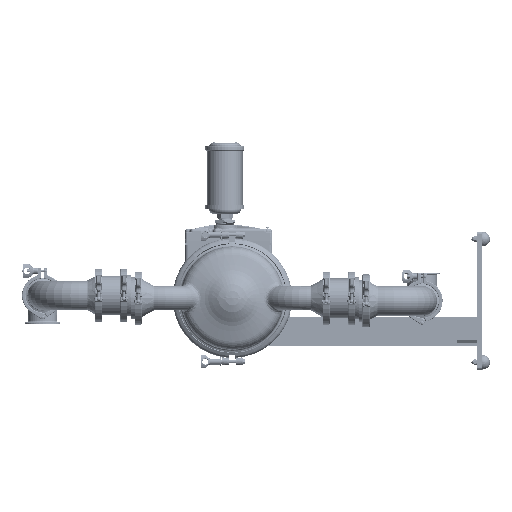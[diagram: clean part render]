
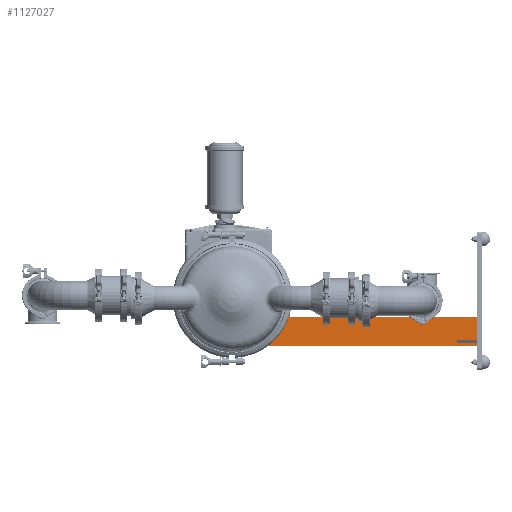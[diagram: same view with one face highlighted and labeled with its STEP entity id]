
A CAD part, left-side view. The second image highlights one B-rep face of the part: STEP entity #1127027.
In plain terms, the highlighted planar face has unit normal (-1, 0, 0).
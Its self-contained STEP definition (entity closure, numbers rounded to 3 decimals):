
#707452=DIRECTION('',(0.,1.,0.));
#707453=VECTOR('',#707452,21.9);
#707454=CARTESIAN_POINT('',(-1.,-24.78,-4.898));
#707455=LINE('',#707454,#707453);
#707456=DIRECTION('',(0.,0.,1.));
#707457=VECTOR('',#707456,2.44);
#707458=CARTESIAN_POINT('',(-1.,-2.88,-4.898));
#707459=LINE('',#707458,#707457);
#707460=DIRECTION('',(0.,1.,0.));
#707461=VECTOR('',#707460,1.33);
#707462=CARTESIAN_POINT('',(-1.,-4.21,-2.458));
#707463=LINE('',#707462,#707461);
#707464=DIRECTION('',(0.,0.,-1.));
#707465=VECTOR('',#707464,0.53);
#707466=CARTESIAN_POINT('',(-1.,-4.21,-1.928));
#707467=LINE('',#707466,#707465);
#707468=DIRECTION('',(0.,-1.,0.));
#707469=VECTOR('',#707468,0.05);
#707470=CARTESIAN_POINT('',(-1.,-4.16,-1.928));
#707471=LINE('',#707470,#707469);
#707472=DIRECTION('',(0.,-1.,0.));
#707473=VECTOR('',#707472,1.28);
#707474=CARTESIAN_POINT('',(-1.,-2.88,-1.928));
#707475=LINE('',#707474,#707473);
#707476=DIRECTION('',(0.,0.,1.));
#707477=VECTOR('',#707476,2.955);
#707478=CARTESIAN_POINT('',(-1.,-2.88,-1.928));
#707479=LINE('',#707478,#707477);
#707480=DIRECTION('',(0.,-1.,0.));
#707481=VECTOR('',#707480,18.9);
#707482=CARTESIAN_POINT('',(-1.,-5.88,-1.898));
#707483=LINE('',#707482,#707481);
#707484=DIRECTION('',(0.,1.,0.));
#707485=VECTOR('',#707484,2.);
#707486=CARTESIAN_POINT('',(-1.,-24.78,-4.288));
#707487=LINE('',#707486,#707485);
#707488=DIRECTION('',(0.,0.,-1.));
#707489=VECTOR('',#707488,0.25);
#707490=CARTESIAN_POINT('',(-1.,-22.78,-4.288));
#707491=LINE('',#707490,#707489);
#707492=DIRECTION('',(0.,1.,0.));
#707493=VECTOR('',#707492,2.);
#707494=CARTESIAN_POINT('',(-1.,-24.78,-4.538));
#707495=LINE('',#707494,#707493);
#707728=DIRECTION('',(0.,0.,-1.));
#707729=VECTOR('',#707728,2.39);
#707730=CARTESIAN_POINT('',(-1.,-24.78,-1.898));
#707731=LINE('',#707730,#707729);
#707760=DIRECTION('',(0.,0.,-1.));
#707761=VECTOR('',#707760,0.36);
#707762=CARTESIAN_POINT('',(-1.,-24.78,-4.538));
#707763=LINE('',#707762,#707761);
#708304=DIRECTION('',(0.,0.,1.));
#708305=VECTOR('',#708304,2.925);
#708306=CARTESIAN_POINT('',(-1.,-5.88,-1.898));
#708307=LINE('',#708306,#708305);
#708320=DIRECTION('',(0.,-1.,0.));
#708321=VECTOR('',#708320,3.);
#708322=CARTESIAN_POINT('',(-1.,-2.88,1.027));
#708323=LINE('',#708322,#708321);
#924719=CARTESIAN_POINT('',(-1.,-24.78,-4.898));
#924721=VERTEX_POINT('',#924719);
#924724=CARTESIAN_POINT('',(-1.,-24.78,-1.898));
#924726=VERTEX_POINT('',#924724);
#924727=CARTESIAN_POINT('',(-1.,-4.21,-1.928));
#924728=CARTESIAN_POINT('',(-1.,-4.21,-2.458));
#924729=VERTEX_POINT('',#924727);
#924730=VERTEX_POINT('',#924728);
#924731=CARTESIAN_POINT('',(-1.,-2.88,-2.458));
#924732=VERTEX_POINT('',#924731);
#924752=CARTESIAN_POINT('',(-1.,-5.88,-1.898));
#924754=VERTEX_POINT('',#924752);
#924759=CARTESIAN_POINT('',(-1.,-2.88,1.027));
#924760=VERTEX_POINT('',#924759);
#924761=CARTESIAN_POINT('',(-1.,-5.88,1.027));
#924762=VERTEX_POINT('',#924761);
#924880=CARTESIAN_POINT('',(-1.,-2.88,-1.928));
#924881=CARTESIAN_POINT('',(-1.,-4.16,-1.928));
#924882=VERTEX_POINT('',#924880);
#924883=VERTEX_POINT('',#924881);
#924908=CARTESIAN_POINT('',(-1.,-24.78,-4.288));
#924910=VERTEX_POINT('',#924908);
#924912=CARTESIAN_POINT('',(-1.,-24.78,-4.538));
#924914=VERTEX_POINT('',#924912);
#924916=CARTESIAN_POINT('',(-1.,-22.78,-4.288));
#924917=VERTEX_POINT('',#924916);
#924918=CARTESIAN_POINT('',(-1.,-22.78,-4.538));
#924919=VERTEX_POINT('',#924918);
#924921=CARTESIAN_POINT('',(-1.,-2.88,-4.898));
#924923=VERTEX_POINT('',#924921);
#1126992=CARTESIAN_POINT('',(-1.,-5.88,-1.898));
#1126993=DIRECTION('',(-1.,0.,0.));
#1126994=DIRECTION('',(0.,0.,-1.));
#1126995=AXIS2_PLACEMENT_3D('',#1126992,#1126993,#1126994);
#1126996=PLANE('',#1126995);
#1126998=ORIENTED_EDGE('',*,*,#1126997,.T.);
#1127000=ORIENTED_EDGE('',*,*,#1126999,.T.);
#1127002=ORIENTED_EDGE('',*,*,#1127001,.F.);
#1127004=ORIENTED_EDGE('',*,*,#1127003,.F.);
#1127005=ORIENTED_EDGE('',*,*,#1126983,.F.);
#1127006=ORIENTED_EDGE('',*,*,#956291,.F.);
#1127008=ORIENTED_EDGE('',*,*,#1127007,.T.);
#1127010=ORIENTED_EDGE('',*,*,#1127009,.T.);
#1127012=ORIENTED_EDGE('',*,*,#1127011,.F.);
#1127014=ORIENTED_EDGE('',*,*,#1127013,.T.);
#1127016=ORIENTED_EDGE('',*,*,#1127015,.T.);
#1127018=ORIENTED_EDGE('',*,*,#1127017,.T.);
#1127020=ORIENTED_EDGE('',*,*,#1127019,.T.);
#1127022=ORIENTED_EDGE('',*,*,#1127021,.F.);
#1127024=ORIENTED_EDGE('',*,*,#1127023,.T.);
#1127025=EDGE_LOOP('',(#1126998,#1127000,#1127002,#1127004,#1127005,#1127006,
#1127008,#1127010,#1127012,#1127014,#1127016,#1127018,#1127020,#1127022,
#1127024));
#1127026=FACE_OUTER_BOUND('',#1127025,.F.);
#1127027=ADVANCED_FACE('',(#1127026),#1126996,.T.);
#956291=EDGE_CURVE('',#924882,#924883,#707475,.T.);
#1126983=EDGE_CURVE('',#924883,#924729,#707471,.T.);
#1126997=EDGE_CURVE('',#924721,#924923,#707455,.T.);
#1126999=EDGE_CURVE('',#924923,#924732,#707459,.T.);
#1127001=EDGE_CURVE('',#924730,#924732,#707463,.T.);
#1127003=EDGE_CURVE('',#924729,#924730,#707467,.T.);
#1127007=EDGE_CURVE('',#924882,#924760,#707479,.T.);
#1127009=EDGE_CURVE('',#924760,#924762,#708323,.T.);
#1127011=EDGE_CURVE('',#924754,#924762,#708307,.T.);
#1127013=EDGE_CURVE('',#924754,#924726,#707483,.T.);
#1127015=EDGE_CURVE('',#924726,#924910,#707731,.T.);
#1127017=EDGE_CURVE('',#924910,#924917,#707487,.T.);
#1127019=EDGE_CURVE('',#924917,#924919,#707491,.T.);
#1127021=EDGE_CURVE('',#924914,#924919,#707495,.T.);
#1127023=EDGE_CURVE('',#924914,#924721,#707763,.T.);
